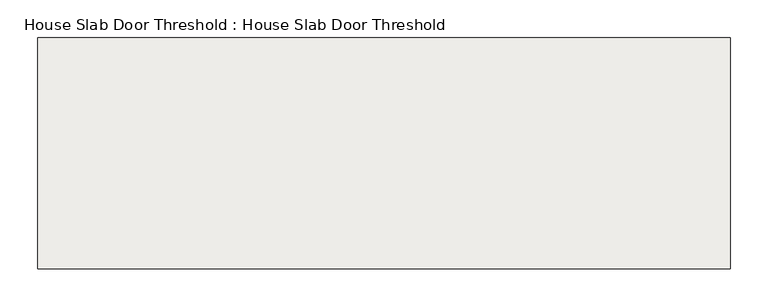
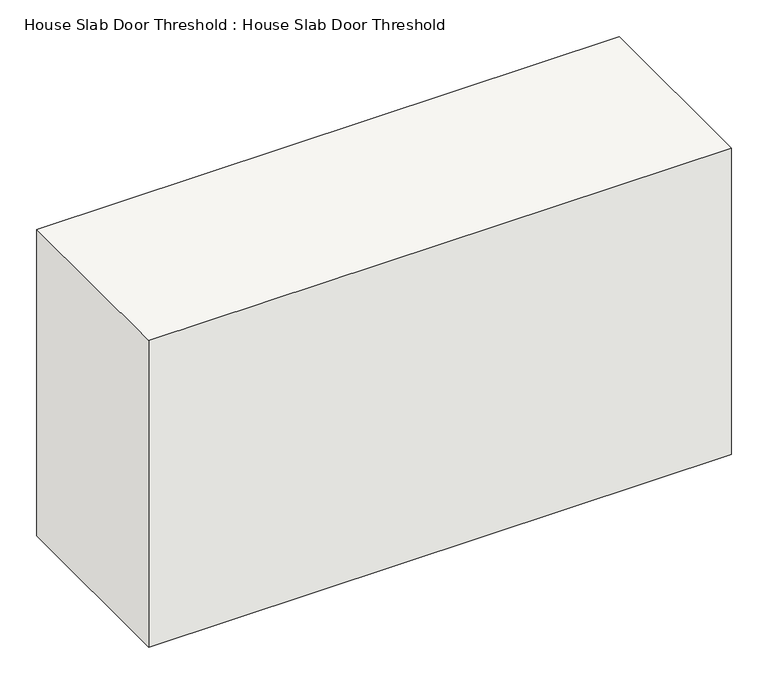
"""IFC4 building model written with IfcOpenShell, lengths in millimetres: slab geometry, House Slab Door Threshold : House Slab Door Threshold."""

import ifcopenshell
import ifcopenshell.guid

model = None  # the IFC model being written
_history = None  # IfcOwnerHistory: only IFC2X3 demands one
_inside = {}  # id of a spatial element -> (the spatial element, [elements in it])
_under = {}  # id of a project, library or spatial element -> (it, [spatial elements below it])
_declared = {}  # id of a project -> (the project, [libraries it declares])
_typed = {}  # id of a type object -> (the type object, [elements of that type])
_made_of = {}  # id of a material, layer set ... -> (it, [elements and type objects made of it])


def new_model(schema):
    """Start an empty IFC model of exactly this schema.

    Asked for "IFC4X3", IfcOpenShell would pick the latest addendum, in which some entities
    have other attributes; the version numbers below select the first issue.
    IFC2X3 requires an IfcOwnerHistory on every rooted entity: one is made here for all.
    """
    global model, _history
    if schema == "IFC4X3":
        model = ifcopenshell.file(schema_version=(4, 3, 0, 0))
    else:
        model = ifcopenshell.file(schema=schema)
    _inside.clear()
    _under.clear()
    _declared.clear()
    _typed.clear()
    _made_of.clear()
    _history = None
    if model.schema == "IFC2X3":
        org = make("IfcOrganization", Name="unknown")
        user = make(
            "IfcPersonAndOrganization",
            ThePerson=make("IfcPerson", FamilyName="unknown"),
            TheOrganization=org,
        )
        app = make(
            "IfcApplication",
            ApplicationDeveloper=org,
            Version="unknown",
            ApplicationFullName="unknown",
            ApplicationIdentifier="unknown",
        )
        _history = make(
            "IfcOwnerHistory",
            OwningUser=user,
            OwningApplication=app,
            ChangeAction="ADDED",
            CreationDate=0,
        )
    return model


def make(cls, **values):
    """One entity of the class cls with the attributes given. An attribute that is None is left unset."""
    return model.create_entity(
        cls, **{name: value for name, value in values.items() if value is not None}
    )


def rooted(cls, **values):
    """An entity with a GlobalId (a new one), such as an element, a storey or a relation."""
    return make(cls, GlobalId=ifcopenshell.guid.new(), OwnerHistory=_history, **values)


def si_unit(unit_type, name, prefix=None):
    """IfcSIUnit, for example si_unit("LENGTHUNIT", "METRE", prefix="MILLI")."""
    return make("IfcSIUnit", UnitType=unit_type, Prefix=prefix, Name=name)


def assignment(units):
    """IfcUnitAssignment: the units of a project."""
    return None if units is None else make("IfcUnitAssignment", Units=units)


def point(xyz):
    """IfcCartesianPoint."""
    return None if xyz is None else make("IfcCartesianPoint", Coordinates=xyz)


def direction(xyz):
    """IfcDirection."""
    return None if xyz is None else make("IfcDirection", DirectionRatios=xyz)


def frame(location, z_axis=None, x_axis=None):
    """IfcAxis2Placement3D, a coordinate frame: its origin and axes. An axis left out is left unset."""
    return make(
        "IfcAxis2Placement3D",
        Location=point(location),
        Axis=direction(z_axis),
        RefDirection=direction(x_axis),
    )


def origin():
    """The frame at (0, 0, 0) with its axes left unset."""
    return frame((0.0, 0.0, 0.0))


def place(relative_to, where):
    """IfcLocalPlacement: puts the frame where relative to a parent placement (None: the world)."""
    return make(
        "IfcLocalPlacement", PlacementRelTo=relative_to, RelativePlacement=where
    )


def context(
    kind, dimensions, precision=None, world=None, true_north=None, identifier=None
):
    """IfcGeometricRepresentationContext, for example the 3D "Model" context."""
    return make(
        "IfcGeometricRepresentationContext",
        ContextIdentifier=identifier,
        ContextType=kind,
        CoordinateSpaceDimension=dimensions,
        Precision=precision,
        WorldCoordinateSystem=world,
        TrueNorth=true_north,
    )


def project(units=None, contexts=None):
    """IfcProject with its units and contexts."""
    return rooted(
        "IfcProject",
        Name="project",
        RepresentationContexts=contexts,
        UnitsInContext=assignment(units),
    )


def spatial(cls, under=None, at=None, **own):
    """A site, building, storey or space (cls), placed at a placement, below another one or the project."""
    s = rooted(cls, ObjectPlacement=at, **own)
    if under is not None:
        _under.setdefault(under.id(), (under, []))[1].append(s)
    return s


def polyline(points):
    """IfcPolyline through the points."""
    return make("IfcPolyline", Points=[point(p) for p in points])


def outline(outer, holes=None, kind="AREA"):
    """IfcArbitraryClosedProfileDef: a profile drawn as a closed curve; with holes, ...WithVoids."""
    if holes is None:
        return make("IfcArbitraryClosedProfileDef", ProfileType=kind, OuterCurve=outer)
    return make(
        "IfcArbitraryProfileDefWithVoids",
        ProfileType=kind,
        OuterCurve=outer,
        InnerCurves=holes,
    )


def extrude(swept, where, along, depth):
    """IfcExtrudedAreaSolid: the profile swept, set in the frame where, extruded along a direction by depth."""
    return make(
        "IfcExtrudedAreaSolid",
        SweptArea=swept,
        Position=where,
        ExtrudedDirection=direction(along),
        Depth=depth,
    )


def shape(context_of_items, identifier, shape_type, items):
    """IfcShapeRepresentation: the items that make up one representation, for example the "Body"."""
    return make(
        "IfcShapeRepresentation",
        ContextOfItems=context_of_items,
        RepresentationIdentifier=identifier,
        RepresentationType=shape_type,
        Items=items,
    )


def source(mapping_origin, context_of_items, identifier, shape_type, items):
    """IfcRepresentationMap: a shape defined once, which mapped items show again and again."""
    return make(
        "IfcRepresentationMap",
        MappingOrigin=mapping_origin,
        MappedRepresentation=shape(context_of_items, identifier, shape_type, items),
    )


def transform(
    local_origin,
    x_axis=None,
    y_axis=None,
    z_axis=None,
    scale=None,
    scale2=None,
    scale3=None,
    uniform=True,
):
    """IfcCartesianTransformationOperator3D, or its non-uniform kind. x_axis, y_axis, z_axis: its Axis1, 2, 3."""
    if uniform:
        return make(
            "IfcCartesianTransformationOperator3D",
            Axis1=direction(x_axis),
            Axis2=direction(y_axis),
            LocalOrigin=point(local_origin),
            Scale=scale,
            Axis3=direction(z_axis),
        )
    return make(
        "IfcCartesianTransformationOperator3DnonUniform",
        Axis1=direction(x_axis),
        Axis2=direction(y_axis),
        LocalOrigin=point(local_origin),
        Scale=scale,
        Axis3=direction(z_axis),
        Scale2=scale2,
        Scale3=scale3,
    )


def mapped(mapping_source, mapping_target):
    """IfcMappedItem: shows the shape of a source again, moved by a transform."""
    return make(
        "IfcMappedItem", MappingSource=mapping_source, MappingTarget=mapping_target
    )


def made_of(thing, what):
    """Note that an element or type object is made of a material, layer set ...; save() writes the relation."""
    if what is not None:
        _made_of.setdefault(what.id(), (what, []))[1].append(thing)
    return thing


def element(
    cls,
    number,
    at=None,
    inside=None,
    cuts=None,
    type_object=None,
    material=None,
    context=None,
    identifier="Body",
    shape_type=None,
    held_by="IfcProductDefinitionShape",
    body=None,
    shapes=None,
    **own,
):
    """One element of the class cls, such as IfcWall. Its Tag is "e" and its number.

    at: its placement. inside: the storey or other place that contains it. cuts: it is an
    opening in that element (IfcRelVoidsElement). A single representation is given by context,
    identifier, shape_type and body (its items); several are given by shapes. held_by: the class
    of the entity that holds the representations. save() writes the other relations.
    """
    e = rooted(cls, Tag="e%d" % number, ObjectPlacement=at, **own)
    if body is not None:
        shapes = [shape(context, identifier, shape_type, body)]
    if shapes is not None:
        e.Representation = make(held_by, Representations=shapes)
    if inside is not None:
        _inside.setdefault(inside.id(), (inside, []))[1].append(e)
    if cuts is not None:
        rooted(
            "IfcRelVoidsElement", RelatingBuildingElement=cuts, RelatedOpeningElement=e
        )
    if type_object is not None:
        _typed.setdefault(type_object.id(), (type_object, []))[1].append(e)
    return made_of(e, material)


def aggregate(whole, parts):
    """IfcRelAggregates: a whole, such as a stair, and the parts it consists of."""
    return rooted("IfcRelAggregates", RelatingObject=whole, RelatedObjects=parts)


def save(model, path):
    """Write the relations noted so far, then the file.

    IfcRelAggregates (storeys below a building ...), IfcRelContainedInSpatialStructure (elements
    in a storey), IfcRelDefinesByType, IfcRelAssociatesMaterial and IfcRelDeclares: one each for
    every whole, place, type object, material and project.
    """
    for whole, parts in _under.values():
        aggregate(whole, parts)
    for where, things in _inside.values():
        rooted(
            "IfcRelContainedInSpatialStructure",
            RelatedElements=things,
            RelatingStructure=where,
        )
    for kind, things in _typed.values():
        rooted("IfcRelDefinesByType", RelatedObjects=things, RelatingType=kind)
    for what, things in _made_of.values():
        rooted("IfcRelAssociatesMaterial", RelatedObjects=things, RelatingMaterial=what)
    for by, libraries in _declared.values():
        rooted("IfcRelDeclares", RelatingContext=by, RelatedDefinitions=libraries)
    model.write(path)


def house_slab_door_threshold_house_slab_door_threshold_10134720(model_context):
    return source(origin(), model_context, "Body", "SweptSolid", [
        extrude(outline(polyline([(-11405.5178637, 3348.5349287), (-11405.5178637, 3043.7349287), (-12319.9178637, 3043.7349287), (-12319.9178637, 3348.5349287), (-11405.5178637, 3348.5349287)])), frame((0.0, 0.0, -883.9398437), z_axis=(0.0, 0.0, 1.0), x_axis=(1.0, 0.0, 0.0)), (0.0, 0.0, 1.0), 508.9921875),
    ])


if __name__ == "__main__":
    model = new_model("IFC4")
    model_context = context("Model", 3, world=origin())
    ifc_project = project(units=[si_unit("LENGTHUNIT", "METRE", prefix="MILLI")], contexts=[model_context])
    site = spatial("IfcSite", under=ifc_project)
    building = spatial("IfcBuilding", under=site)
    placement = place(None, origin())
    house_slab_door_threshold_house_slab_door_threshold_shape = house_slab_door_threshold_house_slab_door_threshold_10134720(model_context)
    element("IfcSlab", 1, ObjectType="House Slab Door Threshold : House Slab Door Threshold", at=placement, inside=building, context=model_context, shape_type="MappedRepresentation", body=[
        mapped(house_slab_door_threshold_house_slab_door_threshold_shape, transform((0.0, 0.0, 0.0), x_axis=(1.0, 0.0, 0.0), y_axis=(0.0, 1.0, 0.0), z_axis=(0.0, 0.0, 1.0))),
    ])
    save(model, "model.ifc")
